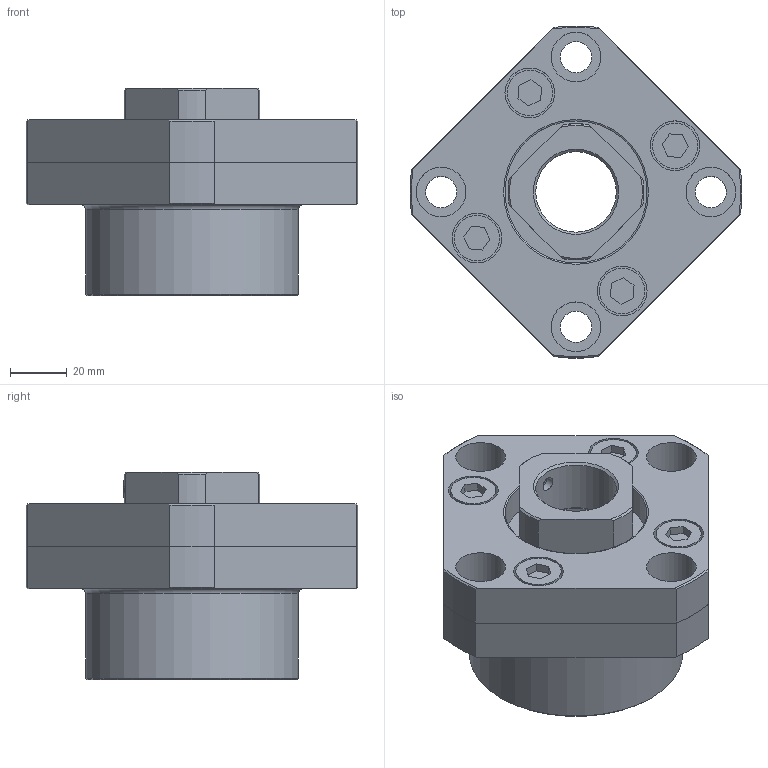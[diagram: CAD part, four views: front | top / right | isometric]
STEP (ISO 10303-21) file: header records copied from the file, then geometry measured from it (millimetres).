
FILE_DESCRIPTION(/* description */ ('STEP AP214'),/* implementation_level */ '2;1');
FILE_NAME(/* name */ 'FK30______CAD_NO_Yes-FS',/* time_stamp */ '2026-09-17T13:37:16+02:00',/* author */ ('License CC BY-ND 4.0'),/* organization */ ('CADENAS'),/* preprocessor_version */ 'ST-DEVELOPER v20',/* originating_system */ 'PARTsolutions',/* authorisation */ ' ');
FILE_SCHEMA (('AUTOMOTIVE_DESIGN {1 0 10303 214 3 1 1}'));
Length unit declared in the file: millimetre
Products named in the file (4): FK30______CAD_NO_Yes-FS; FK 30-FS-1; FK 30collar; RN 30
Assembly tree (4 placements, depth 2):
  FK30______CAD_NO_Yes-FS
    FK 30-FS-1
    FK 30collar  x2
    RN 30
Bounding box: 116.88 x 116.88 x 73 mm (x, y, z)
Volume: 329143.3 mm3; surface area: 59108.8 mm2
Topology: 4 solids, 4 shells, 154 faces, 347 edges, 230 vertices
Faces by surface type: plane 83, cylinder 48, cone 22, torus 1
Full cylindrical faces by diameter (mm): 4.917 x1, 6 x1, 11 x4, 16 x4, 17.5 x8, 28.376 x1, 30 x3, 37.3 x4, 39 x1, 50 x1, 51 x1, 55 x1, 55.04 x1, 75 x1
Entity records: 4199 total; most frequent: CARTESIAN_POINT 795, DIRECTION 690, ORIENTED_EDGE 602, EDGE_CURVE 301, AXIS2_PLACEMENT_3D 268, EDGE_LOOP 230, FACE_BOUND 230, VERTEX_POINT 223
